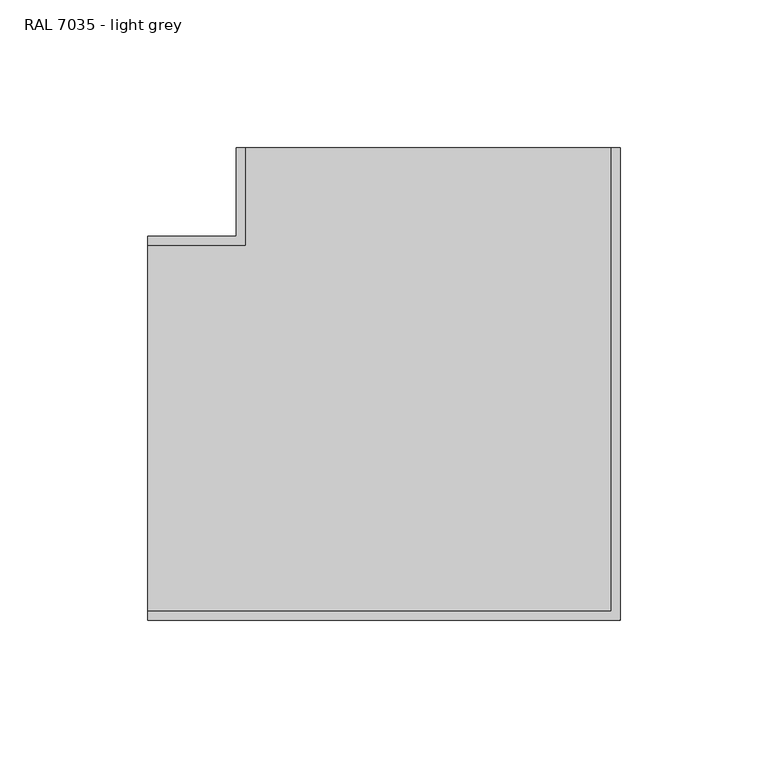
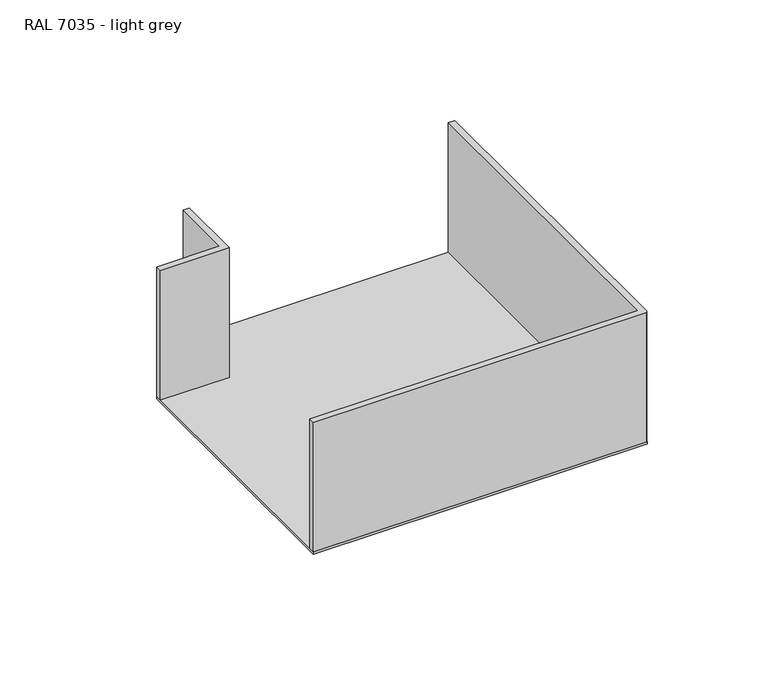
"""IFC4 building model written with IfcOpenShell, lengths in millimetres: cable carrier fitting geometry, Electrical_Installations_Hager_BRP-Flat-Corner-PC-ABS-Vertical-Inside-And-Outside-Bend-One-Compartment : RAL 7035 - light grey."""

from ifc_helpers import new_model, si_unit, point, frame, frame_2d, origin, place, context, project, spatial, polyline, circle_curve, trimmed, segment, composite_curve, outline, extrude, source, transform, mapped, element, save


def ral_7035_light_grey_f3a16432(model_context):
    return source(origin(), model_context, "Body", "SweptSolid", [
        extrude(outline(composite_curve([segment(polyline([(64.3130803, -65.0), (-95.0, -65.0), (-95.0, -62.0), (62.0, -62.0), (62.0, 95.0), (65.0, 95.0), (65.0, -64.3130803)]), True, "CONTINUOUS"), segment(trimmed(circle_curve(frame_2d((64.3130803, -64.3130803)), 0.6869197), [point((65.0, -64.3130803))], [point((64.3130803, -65.0))], False, "CARTESIAN"), True, "CONTINUOUS")], self_intersect=False)), frame((0.0, 0.0, -32.8402081), z_axis=(0.0, 0.0, 1.0), x_axis=(1.0, 0.0, 0.0)), (0.0, 0.0, 1.0), 65.6804162),
        extrude(outline(polyline([(-65.0, 65.0), (-65.0, 95.0), (-62.0, 95.0), (-62.0, 62.0), (-95.0, 62.0), (-95.0, 65.0), (-65.0, 65.0)])), frame((0.0, 0.0, -32.8402081), z_axis=(0.0, 0.0, 1.0), x_axis=(1.0, 0.0, 0.0)), (0.0, 0.0, 1.0), 65.6804162),
        extrude(outline(polyline([(-65.0, 95.0), (65.0, 95.0), (65.0, -65.0), (-95.0, -65.0), (-95.0, 65.0), (-65.0, 65.0), (-65.0, 95.0)])), frame((0.0, 0.0, -34.0), z_axis=(0.0, 0.0, 1.0), x_axis=(1.0, 0.0, 0.0)), (0.0, 0.0, 1.0), 1.1597919),
    ])


if __name__ == "__main__":
    model = new_model("IFC4")
    model_context = context("Model", 3, world=origin())
    ifc_project = project(units=[si_unit("LENGTHUNIT", "METRE", prefix="MILLI")], contexts=[model_context])
    site = spatial("IfcSite", under=ifc_project)
    building = spatial("IfcBuilding", under=site)
    placement = place(None, origin())
    ral_7035_light_grey_shape = ral_7035_light_grey_f3a16432(model_context)
    element("IfcCableCarrierFitting", 1, ObjectType="Electrical_Installations_Hager_BRP-Flat-Corner-PC-ABS-Vertical-Inside-And-Outside-Bend-One-Compartment : RAL 7035 - light grey", at=placement, inside=building, context=model_context, shape_type="MappedRepresentation", body=[
        mapped(ral_7035_light_grey_shape, transform((0.0, 0.0, 0.0), x_axis=(1.0, 0.0, 0.0), y_axis=(0.0, 1.0, 0.0), z_axis=(0.0, 0.0, 1.0))),
    ])
    save(model, "model.ifc")
